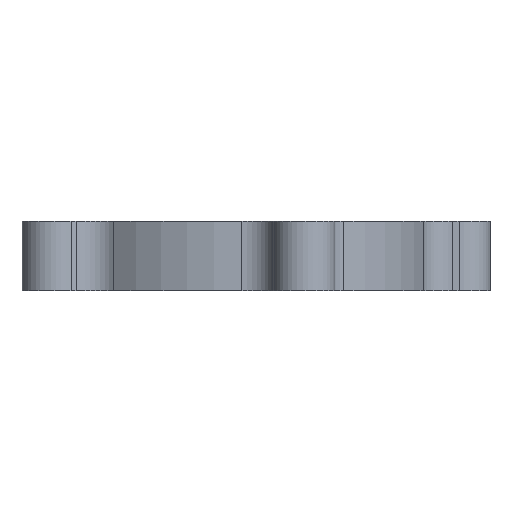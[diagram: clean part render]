
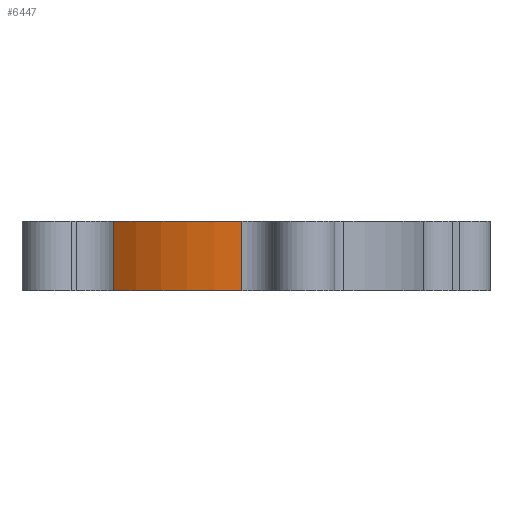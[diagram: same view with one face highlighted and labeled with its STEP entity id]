
A CAD part, left-side view. The second image highlights one B-rep face of the part: STEP entity #6447.
In plain terms, the highlighted cylindrical face has radius 30.163 mm (diameter 60.325 mm), a partial arc.
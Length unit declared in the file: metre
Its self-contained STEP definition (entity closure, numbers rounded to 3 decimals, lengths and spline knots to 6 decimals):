
#1148=LINE('',#7727,#1254);
#1149=LINE('',#7731,#1255);
#1254=VECTOR('',#7108,1.);
#1255=VECTOR('',#7111,1.);
#1364=ORIENTED_EDGE('',*,*,#3580,.T.);
#1365=ORIENTED_EDGE('',*,*,#3581,.T.);
#1366=ORIENTED_EDGE('',*,*,#3582,.F.);
#1367=ORIENTED_EDGE('',*,*,#3583,.T.);
#3580=EDGE_CURVE('',#4688,#4689,#5426,.T.);
#3581=EDGE_CURVE('',#4689,#4690,#1148,.F.);
#3582=EDGE_CURVE('',#4691,#4690,#5427,.F.);
#3583=EDGE_CURVE('',#4691,#4688,#1149,.T.);
#4688=VERTEX_POINT('',#7725);
#4689=VERTEX_POINT('',#7726);
#4690=VERTEX_POINT('',#7728);
#4691=VERTEX_POINT('',#7730);
#5426=CIRCLE('',#6838,0.030163);
#5427=CIRCLE('',#6839,0.030163);
#5586=EDGE_LOOP('',(#1364,#1365,#1366,#1367));
#5976=FACE_BOUND('',#5586,.T.);
#6366=CYLINDRICAL_SURFACE('',#6837,0.030163);
#6447=ADVANCED_FACE('',(#5976),#6366,.T.);
#6837=AXIS2_PLACEMENT_3D('',#7723,#7104,#7105);
#6838=AXIS2_PLACEMENT_3D('',#7724,#7106,#7107);
#6839=AXIS2_PLACEMENT_3D('',#7729,#7109,#7110);
#7104=DIRECTION('',(0.,0.,-1.));
#7105=DIRECTION('',(-1.,0.,0.));
#7106=DIRECTION('',(0.,0.,1.));
#7107=DIRECTION('',(1.,0.,0.));
#7108=DIRECTION('',(0.,0.,-1.));
#7109=DIRECTION('',(0.,0.,-1.));
#7110=DIRECTION('',(-1.,0.,0.));
#7111=DIRECTION('',(0.,0.,-1.));
#7723=CARTESIAN_POINT('',(0.,0.,0.05878));
#7724=CARTESIAN_POINT('',(0.,0.,0.044925));
#7725=CARTESIAN_POINT('',(-0.023712,0.018642,0.044925));
#7726=CARTESIAN_POINT('',(-0.030141,-0.001144,0.044925));
#7727=CARTESIAN_POINT('',(-0.030141,-0.001144,0.05878));
#7728=CARTESIAN_POINT('',(-0.030141,-0.001144,0.055641));
#7729=CARTESIAN_POINT('',(0.,0.,0.055641));
#7730=CARTESIAN_POINT('',(-0.023712,0.018642,0.055641));
#7731=CARTESIAN_POINT('',(-0.023712,0.018642,0.05878));
